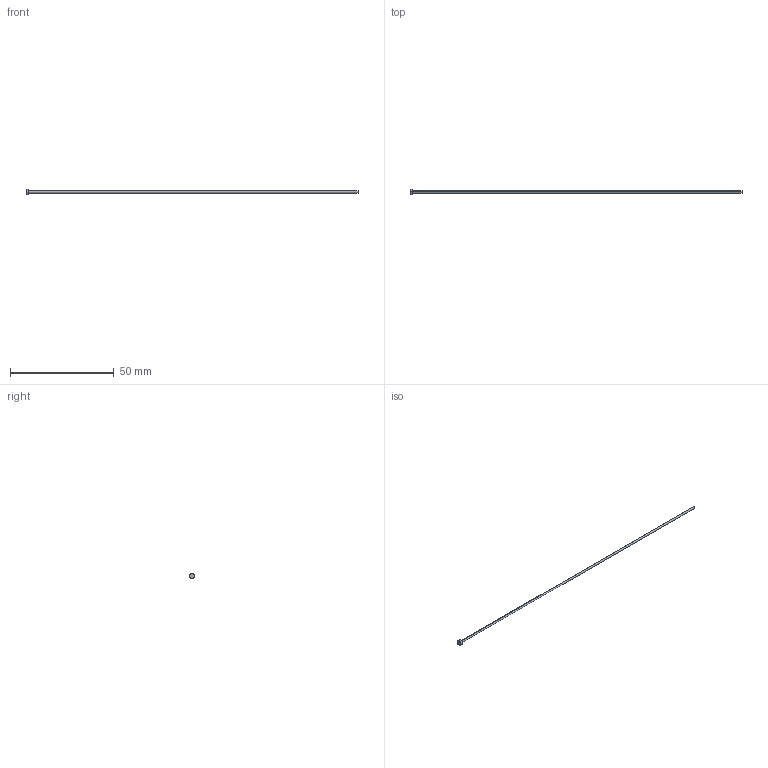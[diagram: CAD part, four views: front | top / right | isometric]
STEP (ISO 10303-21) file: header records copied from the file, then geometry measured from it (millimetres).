
FILE_DESCRIPTION (( 'STEP AP214' ), '1' );
FILE_NAME ('ERF_01.0x160.STEP', '2016-03-23T18:41:36', ( '' ), ( '' ), 'SwSTEP 2.0', 'SolidWorks 2014', '' );
FILE_SCHEMA (( 'AUTOMOTIVE_DESIGN' ));
Length unit declared in the file: millimetre
Products named in the file (1): ERF_01.0x160
Bounding box: 160 x 2.5 x 2.5 mm (x, y, z)
Volume: 130.6 mm3; surface area: 517.9 mm2
Topology: 1 solids, 1 shells, 9 faces, 16 edges, 10 vertices
Faces by surface type: cylinder 4, plane 3, torus 2
Entity records: 260 total; most frequent: DIRECTION 48, CARTESIAN_POINT 36, ORIENTED_EDGE 32, AXIS2_PLACEMENT_3D 22, EDGE_CURVE 16, CIRCLE 12, VERTEX_POINT 10, EDGE_LOOP 10
